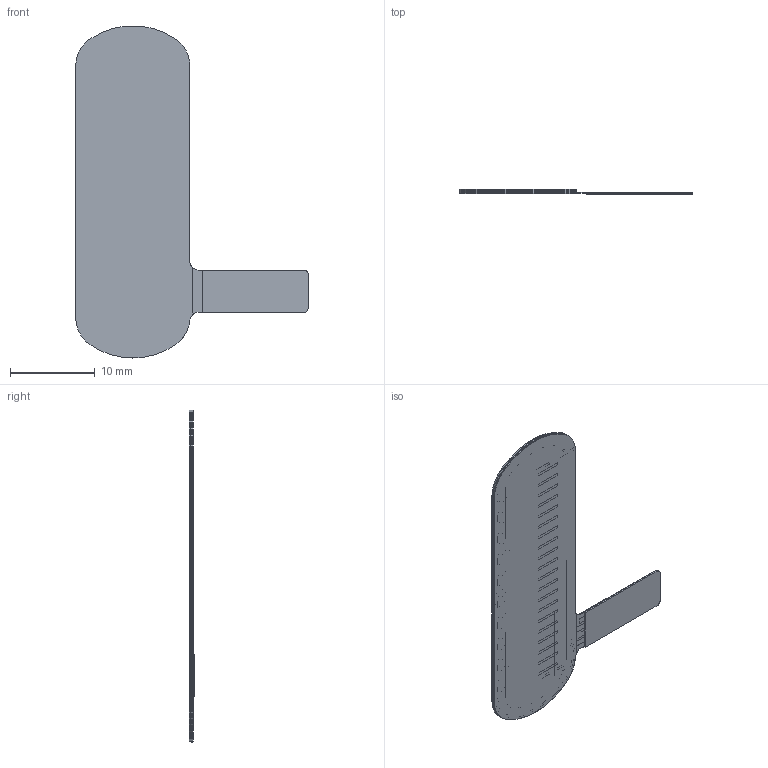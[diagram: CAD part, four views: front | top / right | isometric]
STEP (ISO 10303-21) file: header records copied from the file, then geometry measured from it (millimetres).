
FILE_DESCRIPTION (( 'STEP AP214' ), '1' );
FILE_NAME ('34-00003-Strip Sensor.STEP', '2011-09-09T23:16:48', ( ' ' ), ( '' ), 'SwSTEP 2.0', 'SolidWorks 2008', '' );
FILE_SCHEMA (( 'AUTOMOTIVE_DESIGN' ));
Length unit declared in the file: millimetre
Products named in the file (11): 34-00003-Conductor Substrate; 34-00003-Rear Adhesive; 34-00003-Strip Sensor; 34-00003-Spacer; 34-00003-Resistor; 34-00003-Conductor; 34-00003-Stiffener; 34-00003-Graphic Substrate; 34-00003-Graphic Adhesive; 34-00003-Semi-Conductor; 34-00003-Dielectric
Assembly tree (10 placements, depth 2):
  34-00003-Strip Sensor
    34-00003-Graphic Adhesive
    34-00003-Graphic Substrate
    34-00003-Conductor Substrate
    34-00003-Stiffener
    34-00003-Dielectric
    34-00003-Conductor
    34-00003-Semi-Conductor
    34-00003-Resistor
    34-00003-Rear Adhesive
    34-00003-Spacer
Bounding box: 27.5 x 0.62 x 39.27 mm (x, y, z)
Volume: 231.3 mm3; surface area: 6292.5 mm2
Topology: 43 solids, 43 shells, 1553 faces, 4380 edges, 2920 vertices
Faces by surface type: plane 1450, cylinder 103
Entity records: 50912 total; most frequent: CARTESIAN_POINT 8866, ORIENTED_EDGE 8760, DIRECTION 7718, EDGE_CURVE 4380, LINE 4174, VECTOR 4174, VERTEX_POINT 2920, AXIS2_PLACEMENT_3D 1772
